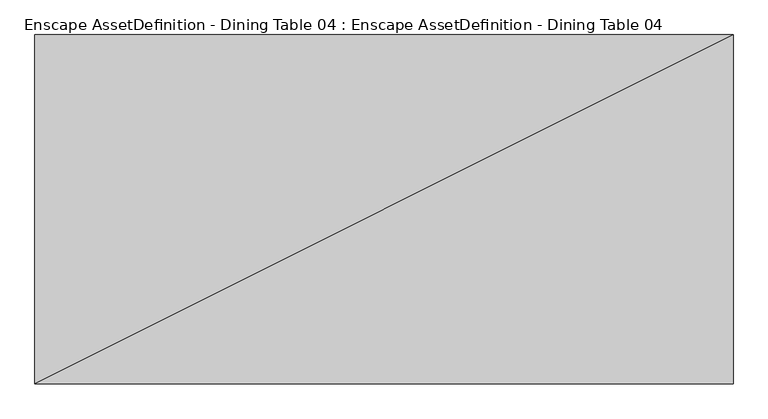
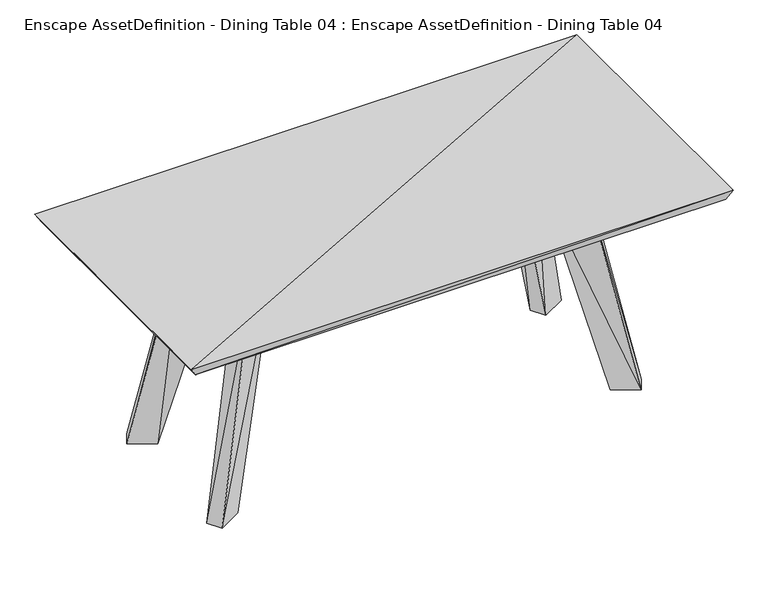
"""IFC4 building model written with IfcOpenShell, lengths in millimetres: geographic element geometry, Enscape AssetDefinition - Dining Table 04 : Enscape AssetDefinition - Dining Table 04."""

import ifcopenshell
import ifcopenshell.guid

model = None  # the IFC model being written
_history = None  # IfcOwnerHistory: only IFC2X3 demands one
_inside = {}  # id of a spatial element -> (the spatial element, [elements in it])
_under = {}  # id of a project, library or spatial element -> (it, [spatial elements below it])
_declared = {}  # id of a project -> (the project, [libraries it declares])
_typed = {}  # id of a type object -> (the type object, [elements of that type])
_made_of = {}  # id of a material, layer set ... -> (it, [elements and type objects made of it])


def new_model(schema):
    """Start an empty IFC model of exactly this schema.

    Asked for "IFC4X3", IfcOpenShell would pick the latest addendum, in which some entities
    have other attributes; the version numbers below select the first issue.
    IFC2X3 requires an IfcOwnerHistory on every rooted entity: one is made here for all.
    """
    global model, _history
    if schema == "IFC4X3":
        model = ifcopenshell.file(schema_version=(4, 3, 0, 0))
    else:
        model = ifcopenshell.file(schema=schema)
    _inside.clear()
    _under.clear()
    _declared.clear()
    _typed.clear()
    _made_of.clear()
    _history = None
    if model.schema == "IFC2X3":
        org = make("IfcOrganization", Name="unknown")
        user = make(
            "IfcPersonAndOrganization",
            ThePerson=make("IfcPerson", FamilyName="unknown"),
            TheOrganization=org,
        )
        app = make(
            "IfcApplication",
            ApplicationDeveloper=org,
            Version="unknown",
            ApplicationFullName="unknown",
            ApplicationIdentifier="unknown",
        )
        _history = make(
            "IfcOwnerHistory",
            OwningUser=user,
            OwningApplication=app,
            ChangeAction="ADDED",
            CreationDate=0,
        )
    return model


def make(cls, **values):
    """One entity of the class cls with the attributes given. An attribute that is None is left unset."""
    return model.create_entity(
        cls, **{name: value for name, value in values.items() if value is not None}
    )


def rooted(cls, **values):
    """An entity with a GlobalId (a new one), such as an element, a storey or a relation."""
    return make(cls, GlobalId=ifcopenshell.guid.new(), OwnerHistory=_history, **values)


def si_unit(unit_type, name, prefix=None):
    """IfcSIUnit, for example si_unit("LENGTHUNIT", "METRE", prefix="MILLI")."""
    return make("IfcSIUnit", UnitType=unit_type, Prefix=prefix, Name=name)


def assignment(units):
    """IfcUnitAssignment: the units of a project."""
    return None if units is None else make("IfcUnitAssignment", Units=units)


def point(xyz):
    """IfcCartesianPoint."""
    return None if xyz is None else make("IfcCartesianPoint", Coordinates=xyz)


def direction(xyz):
    """IfcDirection."""
    return None if xyz is None else make("IfcDirection", DirectionRatios=xyz)


def frame(location, z_axis=None, x_axis=None):
    """IfcAxis2Placement3D, a coordinate frame: its origin and axes. An axis left out is left unset."""
    return make(
        "IfcAxis2Placement3D",
        Location=point(location),
        Axis=direction(z_axis),
        RefDirection=direction(x_axis),
    )


def origin():
    """The frame at (0, 0, 0) with its axes left unset."""
    return frame((0.0, 0.0, 0.0))


def place(relative_to, where):
    """IfcLocalPlacement: puts the frame where relative to a parent placement (None: the world)."""
    return make(
        "IfcLocalPlacement", PlacementRelTo=relative_to, RelativePlacement=where
    )


def context(
    kind, dimensions, precision=None, world=None, true_north=None, identifier=None
):
    """IfcGeometricRepresentationContext, for example the 3D "Model" context."""
    return make(
        "IfcGeometricRepresentationContext",
        ContextIdentifier=identifier,
        ContextType=kind,
        CoordinateSpaceDimension=dimensions,
        Precision=precision,
        WorldCoordinateSystem=world,
        TrueNorth=true_north,
    )


def project(units=None, contexts=None):
    """IfcProject with its units and contexts."""
    return rooted(
        "IfcProject",
        Name="project",
        RepresentationContexts=contexts,
        UnitsInContext=assignment(units),
    )


def spatial(cls, under=None, at=None, **own):
    """A site, building, storey or space (cls), placed at a placement, below another one or the project."""
    s = rooted(cls, ObjectPlacement=at, **own)
    if under is not None:
        _under.setdefault(under.id(), (under, []))[1].append(s)
    return s


def faces_of(points, faces, orient=None, outer=None):
    """IfcFace entities. A face is a list of loops; a loop is a list of indices into points, from 0.

    orient and outer hold one flag for each loop. By default every Orientation is true, the
    first loop of a face is its IfcFaceOuterBound and the others are IfcFaceBound.
    """
    made = []
    for i, loops in enumerate(faces):
        bounds = []
        for j, loop in enumerate(loops):
            is_outer = j == 0 if outer is None else outer[i][j]
            bounds.append(
                make(
                    "IfcFaceOuterBound" if is_outer else "IfcFaceBound",
                    Bound=make("IfcPolyLoop", Polygon=[points[k] for k in loop]),
                    Orientation=True if orient is None else orient[i][j],
                )
            )
        made.append(make("IfcFace", Bounds=bounds))
    return made


def faceted_brep(points, faces, orient=None, outer=None, voids=None):
    """IfcFacetedBrep: a solid bounded by flat faces; with voids (closed shells), ...WithVoids."""
    shared = [point(p) for p in points]
    hull = make("IfcClosedShell", CfsFaces=faces_of(shared, faces, orient, outer))
    if voids is None:
        return make("IfcFacetedBrep", Outer=hull)
    return make(
        "IfcFacetedBrepWithVoids",
        Outer=hull,
        Voids=[
            make(cls, CfsFaces=faces_of(shared, fs, o, b)) for cls, fs, o, b in voids
        ],
    )


def shape(context_of_items, identifier, shape_type, items):
    """IfcShapeRepresentation: the items that make up one representation, for example the "Body"."""
    return make(
        "IfcShapeRepresentation",
        ContextOfItems=context_of_items,
        RepresentationIdentifier=identifier,
        RepresentationType=shape_type,
        Items=items,
    )


def source(mapping_origin, context_of_items, identifier, shape_type, items):
    """IfcRepresentationMap: a shape defined once, which mapped items show again and again."""
    return make(
        "IfcRepresentationMap",
        MappingOrigin=mapping_origin,
        MappedRepresentation=shape(context_of_items, identifier, shape_type, items),
    )


def transform(
    local_origin,
    x_axis=None,
    y_axis=None,
    z_axis=None,
    scale=None,
    scale2=None,
    scale3=None,
    uniform=True,
):
    """IfcCartesianTransformationOperator3D, or its non-uniform kind. x_axis, y_axis, z_axis: its Axis1, 2, 3."""
    if uniform:
        return make(
            "IfcCartesianTransformationOperator3D",
            Axis1=direction(x_axis),
            Axis2=direction(y_axis),
            LocalOrigin=point(local_origin),
            Scale=scale,
            Axis3=direction(z_axis),
        )
    return make(
        "IfcCartesianTransformationOperator3DnonUniform",
        Axis1=direction(x_axis),
        Axis2=direction(y_axis),
        LocalOrigin=point(local_origin),
        Scale=scale,
        Axis3=direction(z_axis),
        Scale2=scale2,
        Scale3=scale3,
    )


def mapped(mapping_source, mapping_target):
    """IfcMappedItem: shows the shape of a source again, moved by a transform."""
    return make(
        "IfcMappedItem", MappingSource=mapping_source, MappingTarget=mapping_target
    )


def made_of(thing, what):
    """Note that an element or type object is made of a material, layer set ...; save() writes the relation."""
    if what is not None:
        _made_of.setdefault(what.id(), (what, []))[1].append(thing)
    return thing


def element(
    cls,
    number,
    at=None,
    inside=None,
    cuts=None,
    type_object=None,
    material=None,
    context=None,
    identifier="Body",
    shape_type=None,
    held_by="IfcProductDefinitionShape",
    body=None,
    shapes=None,
    **own,
):
    """One element of the class cls, such as IfcWall. Its Tag is "e" and its number.

    at: its placement. inside: the storey or other place that contains it. cuts: it is an
    opening in that element (IfcRelVoidsElement). A single representation is given by context,
    identifier, shape_type and body (its items); several are given by shapes. held_by: the class
    of the entity that holds the representations. save() writes the other relations.
    """
    e = rooted(cls, Tag="e%d" % number, ObjectPlacement=at, **own)
    if body is not None:
        shapes = [shape(context, identifier, shape_type, body)]
    if shapes is not None:
        e.Representation = make(held_by, Representations=shapes)
    if inside is not None:
        _inside.setdefault(inside.id(), (inside, []))[1].append(e)
    if cuts is not None:
        rooted(
            "IfcRelVoidsElement", RelatingBuildingElement=cuts, RelatedOpeningElement=e
        )
    if type_object is not None:
        _typed.setdefault(type_object.id(), (type_object, []))[1].append(e)
    return made_of(e, material)


def aggregate(whole, parts):
    """IfcRelAggregates: a whole, such as a stair, and the parts it consists of."""
    return rooted("IfcRelAggregates", RelatingObject=whole, RelatedObjects=parts)


def save(model, path):
    """Write the relations noted so far, then the file.

    IfcRelAggregates (storeys below a building ...), IfcRelContainedInSpatialStructure (elements
    in a storey), IfcRelDefinesByType, IfcRelAssociatesMaterial and IfcRelDeclares: one each for
    every whole, place, type object, material and project.
    """
    for whole, parts in _under.values():
        aggregate(whole, parts)
    for where, things in _inside.values():
        rooted(
            "IfcRelContainedInSpatialStructure",
            RelatedElements=things,
            RelatingStructure=where,
        )
    for kind, things in _typed.values():
        rooted("IfcRelDefinesByType", RelatedObjects=things, RelatingType=kind)
    for what, things in _made_of.values():
        rooted("IfcRelAssociatesMaterial", RelatedObjects=things, RelatingMaterial=what)
    for by, libraries in _declared.values():
        rooted("IfcRelDeclares", RelatingContext=by, RelatedDefinitions=libraries)
    model.write(path)


def enscape_assetdefinition_dining_table_04_enscape_079112b5(model_context):
    return source(origin(), model_context, "Body", "Brep", [
        faceted_brep([(438.7401044, -128.0518323, 698.2818842), (682.0667982, -268.5364485, 0.0001099), (546.3755131, -190.1925951, 698.2818842), (606.8634987, -225.1151055, 0.0001099), (707.2969079, -224.8394042, 0.0001099), (571.6036558, -146.4944333, 698.2818842), (463.9677703, -84.353447, 698.2818842), (632.0931315, -181.4178377, 0.0001099)], [[[0, 1, 2]], [[1, 0, 3]], [[4, 2, 1]], [[3, 4, 1]], [[2, 4, 5]], [[5, 0, 2]], [[6, 3, 0]], [[0, 5, 6]], [[3, 6, 7]], [[4, 3, 7]], [[7, 5, 4]], [[5, 7, 6]]]),
        faceted_brep([(-438.7400448, -128.0519664, 698.281765), (-682.066679, -268.5365677, 0.0), (-606.8633199, -225.11518, 0.0), (-546.3755131, -190.1927143, 698.281765), (-707.2968483, -224.8394936, 0.0), (-463.9676511, -84.353514, 698.2818246), (-632.0929527, -181.417942, 3.66e-05), (-571.6036558, -146.4945674, 698.281765)], [[[0, 1, 2]], [[1, 0, 3]], [[3, 4, 1]], [[4, 2, 1]], [[5, 2, 6]], [[2, 5, 0]], [[2, 4, 6]], [[0, 7, 3]], [[7, 0, 5]], [[4, 3, 7]], [[7, 6, 4]], [[6, 7, 5]]]),
        faceted_brep([(438.7401044, 128.0516386, 698.2818842), (682.0668578, 268.5365975, 0.0002197), (606.8634987, 225.1152843, 0.0001831), (546.3755727, 190.1923567, 698.2819438), (707.2969675, 224.8395681, 0.0001831), (463.9678001, 84.3532234, 698.2818842), (632.0931315, 181.4180166, 0.0001831), (571.6036558, 146.4941949, 698.2818842)], [[[0, 1, 2]], [[1, 0, 3]], [[3, 4, 1]], [[4, 2, 1]], [[5, 2, 6]], [[2, 5, 0]], [[2, 4, 6]], [[0, 7, 3]], [[7, 0, 5]], [[4, 3, 7]], [[7, 6, 4]], [[6, 7, 5]]]),
        faceted_brep([(-438.7399852, 128.0515641, 698.2818842), (-682.066679, 268.5364485, 0.0001465), (-546.3753939, 190.1922524, 698.2818842), (-606.8633795, 225.11518, 0.0001099), (-707.2968483, 224.8394191, 0.0001099), (-571.603477, 146.4940906, 698.2818246), (-463.9677405, 84.3531117, 698.2818246), (-632.0929527, 181.417942, 7.32e-05)], [[[0, 1, 2]], [[1, 0, 3]], [[4, 2, 1]], [[3, 4, 1]], [[2, 4, 5]], [[5, 0, 2]], [[6, 3, 0]], [[0, 5, 6]], [[3, 6, 7]], [[4, 3, 7]], [[7, 5, 4]], [[5, 7, 6]]]),
        faceted_brep([(514.380157, 145.4410106, 496.9798625), (-514.3799186, -145.4410851, 496.9798625), (-514.3797994, 145.4409361, 496.9798625), (514.3800974, -145.4409808, 496.9798326), (514.3800974, -145.4410106, 686.588645), (-514.3799186, -145.4410851, 686.588645), (-514.3797994, 145.4409361, 686.588645), (514.380157, 145.4410106, 686.588645)], [[[0, 1, 2]], [[1, 0, 3]], [[4, 1, 3]], [[1, 4, 5]], [[5, 2, 1]], [[6, 0, 2]], [[2, 5, 6]], [[7, 3, 0]], [[0, 6, 7]], [[3, 7, 4]], [[7, 5, 4]], [[5, 7, 6]]]),
        faceted_brep([(864.0000224, 432.00019, 690.8913851), (-863.9996648, -432.00019, 690.8913851), (-863.9996648, 431.999892, 690.8914447), (863.9999628, -432.000041, 690.8913851), (881.803453, -441.2127435, 720.3009725), (-881.8032146, -441.2128925, 720.3009725), (-881.8032146, 441.2125945, 720.3011513), (881.8035126, 441.2128329, 720.3010917)], [[[0, 1, 2]], [[1, 0, 3]], [[4, 1, 3]], [[1, 4, 5]], [[5, 2, 1]], [[6, 0, 2]], [[2, 5, 6]], [[7, 3, 0]], [[0, 6, 7]], [[3, 7, 4]], [[7, 5, 4]], [[5, 7, 6]]]),
    ])


if __name__ == "__main__":
    model = new_model("IFC4")
    model_context = context("Model", 3, world=origin())
    ifc_project = project(units=[si_unit("LENGTHUNIT", "METRE", prefix="MILLI")], contexts=[model_context])
    site = spatial("IfcSite", under=ifc_project)
    building = spatial("IfcBuilding", under=site)
    placement = place(None, origin())
    enscape_assetdefinition_dining_table_04_enscape_shape = enscape_assetdefinition_dining_table_04_enscape_079112b5(model_context)
    element("IfcGeographicElement", 1, ObjectType="Enscape AssetDefinition - Dining Table 04 : Enscape AssetDefinition - Dining Table 04", at=placement, inside=building, context=model_context, shape_type="MappedRepresentation", body=[
        mapped(enscape_assetdefinition_dining_table_04_enscape_shape, transform((0.0, 0.0, 0.0), x_axis=(1.0, 0.0, 0.0), y_axis=(0.0, 1.0, 0.0), z_axis=(0.0, 0.0, 1.0))),
    ])
    save(model, "model.ifc")
